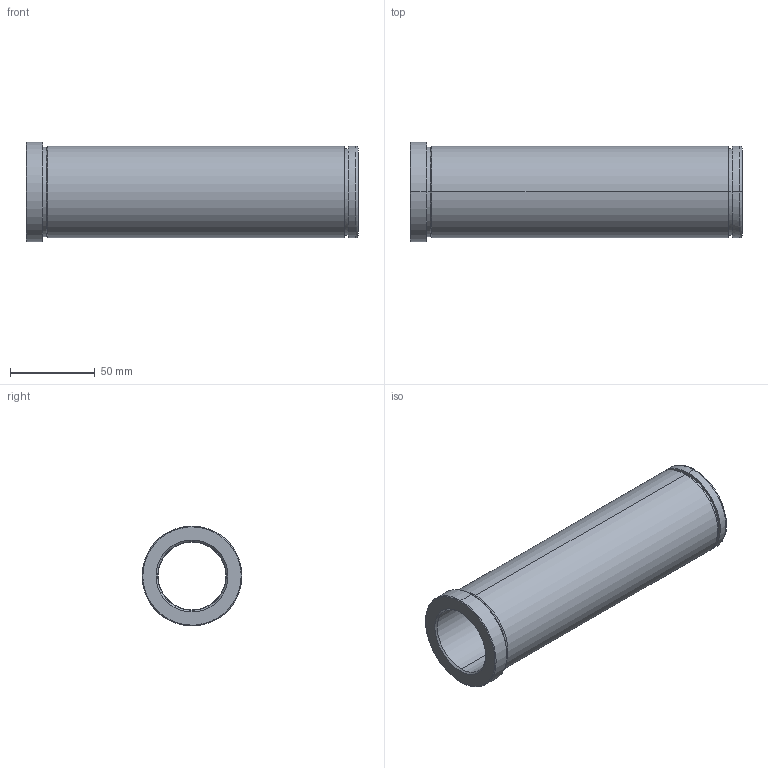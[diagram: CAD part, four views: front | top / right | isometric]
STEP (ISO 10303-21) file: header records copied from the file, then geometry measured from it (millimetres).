
FILE_DESCRIPTION(('CATIA V5 STEP Exchange'),'2;1');
FILE_NAME('C:\Users\Utente\Desktop\IO LAVORO\3D X SITO CF\X SITO\PLASTICA\553\553-40X196.stp','2021-06-03T18:32:41+00:00',('none'),('none'),'CATIA Version 5 Release 20 GA (IN-10)','CATIA V5 STEP AP203','none');
FILE_SCHEMA(('CONFIG_CONTROL_DESIGN'));
Length unit declared in the file: millimetre
Products named in the file (1): 553-40X196
Bounding box: 196 x 59 x 59 mm (x, y, z)
Volume: 203418 mm3; surface area: 61289 mm2
Topology: 1 solids, 1 shells, 32 faces, 102 edges, 76 vertices
Faces by surface type: cylinder 14, cone 8, plane 6, torus 4
Entity records: 1334 total; most frequent: CARTESIAN_POINT 389, ORIENTED_EDGE 204, DIRECTION 152, EDGE_CURVE 102, AXIS2_PLACEMENT_3D 99, VERTEX_POINT 76, CIRCLE 66, EDGE_LOOP 38
